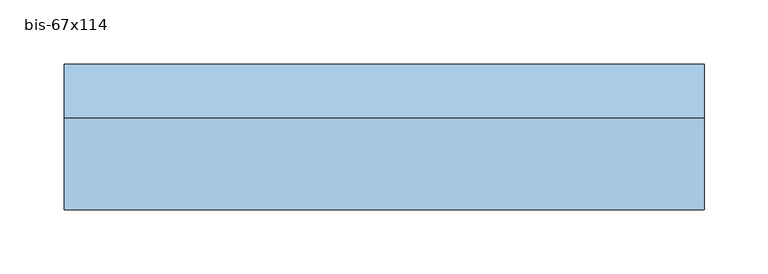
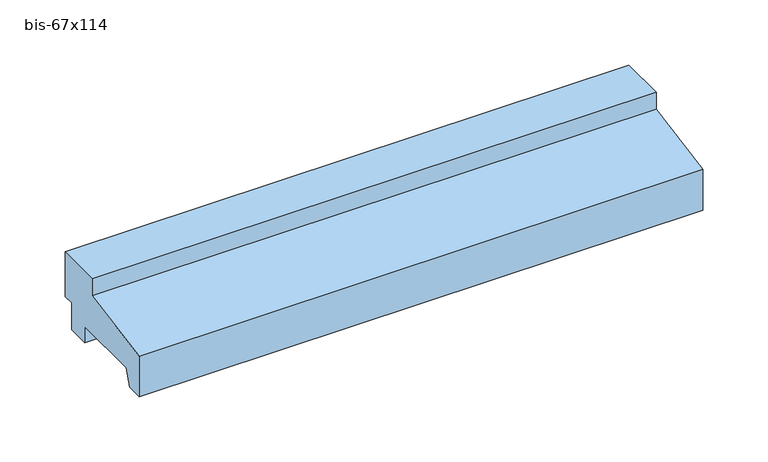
"""IFC4 building model written with IfcOpenShell, lengths in millimetres: window geometry, NLRS_30_WIN_onderdorpel_sh_gen_TOBA-JM : bis-67x114."""

from ifc_helpers import new_model, si_unit, frame, origin, place, context, project, spatial, polyline, outline, extrude, source, transform, mapped, element, save


def bis_67x114_98b7bb84(model_context):
    return source(origin(), model_context, "Body", "SweptSolid", [
        extrude(outline(polyline([(0.0, 38.3), (72.0, 51.0), (72.0, 67.0), (114.0, 67.0), (114.0, 25.0), (104.0, 25.0), (104.0, 0.0), (84.0, 0.0), (84.0, 15.0), (20.3, 15.0), (15.0, 0.0), (0.0, 0.0), (0.0, 38.3)])), frame((-250.0, 0.0, 0.0), z_axis=(1.0, 0.0, 0.0), x_axis=(0.0, 1.0, 0.0)), (0.0, 0.0, 1.0), 500.0),
    ])


if __name__ == "__main__":
    model = new_model("IFC4")
    model_context = context("Model", 3, world=origin())
    ifc_project = project(units=[si_unit("LENGTHUNIT", "METRE", prefix="MILLI")], contexts=[model_context])
    site = spatial("IfcSite", under=ifc_project)
    building = spatial("IfcBuilding", under=site)
    placement = place(None, origin())
    bis_67x114_shape = bis_67x114_98b7bb84(model_context)
    element("IfcWindow", 1, ObjectType="NLRS_30_WIN_onderdorpel_sh_gen_TOBA-JM : bis-67x114", at=placement, inside=building, context=model_context, shape_type="MappedRepresentation", body=[
        mapped(bis_67x114_shape, transform((0.0, 0.0, 0.0), x_axis=(1.0, 0.0, 0.0), y_axis=(0.0, 1.0, 0.0), z_axis=(0.0, 0.0, 1.0))),
    ])
    save(model, "model.ifc")
